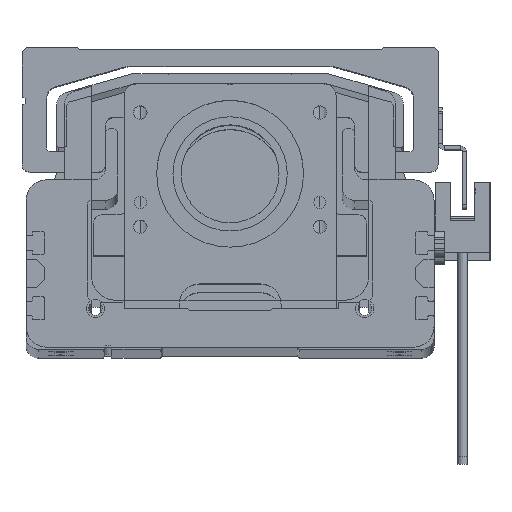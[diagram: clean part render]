
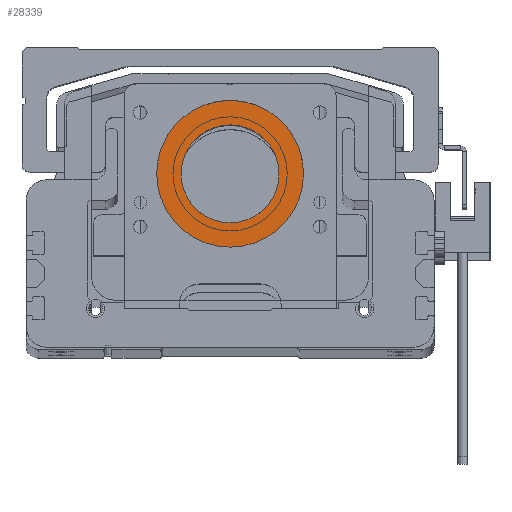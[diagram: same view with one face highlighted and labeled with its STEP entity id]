
A CAD part, top view. The second image highlights one B-rep face of the part: STEP entity #28339.
In plain terms, the highlighted planar face has unit normal (0, 0, 1).
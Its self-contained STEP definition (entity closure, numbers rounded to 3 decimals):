
#1745 = DIRECTION ( 'NONE',  ( 1., 0., 0. ) ) ;
#1786 = DIRECTION ( 'NONE',  ( 0., 0., 1. ) ) ;
#1792 = CARTESIAN_POINT ( 'NONE',  ( 0., 33., 2.5 ) ) ;
#2584 = EDGE_LOOP ( 'NONE', ( #22547, #3593 ) ) ;
#3043 = CIRCLE ( 'NONE', #20896, 18. ) ;
#3593 = ORIENTED_EDGE ( 'NONE', *, *, #31316, .T. ) ;
#5045 = ORIENTED_EDGE ( 'NONE', *, *, #23873, .F. ) ;
#6402 = CARTESIAN_POINT ( 'NONE',  ( 0., 33., 2.5 ) ) ;
#8104 = AXIS2_PLACEMENT_3D ( 'NONE', #28690, #13415, #31208 ) ;
#8512 = ORIENTED_EDGE ( 'NONE', *, *, #18839, .F. ) ;
#10773 = CARTESIAN_POINT ( 'NONE',  ( -12., 33., 2.5 ) ) ;
#11591 = DIRECTION ( 'NONE',  ( 0., 0., 1. ) ) ;
#12077 = VERTEX_POINT ( 'NONE', #27570 ) ;
#13415 = DIRECTION ( 'NONE',  ( 0., 0., 1. ) ) ;
#13683 = CIRCLE ( 'NONE', #8104, 18. ) ;
#15965 = CIRCLE ( 'NONE', #18710, 12. ) ;
#18486 = VERTEX_POINT ( 'NONE', #10773 ) ;
#18503 = AXIS2_PLACEMENT_3D ( 'NONE', #19681, #19646, #19640 ) ;
#18710 = AXIS2_PLACEMENT_3D ( 'NONE', #1792, #1786, #1745 ) ;
#18839 = EDGE_CURVE ( 'NONE', #18486, #21150, #15965, .T. ) ;
#19222 = CIRCLE ( 'NONE', #18503, 12. ) ;
#19395 = EDGE_CURVE ( 'NONE', #21431, #12077, #3043, .T. ) ;
#19495 = DIRECTION ( 'NONE',  ( 1., 0., 0. ) ) ;
#19617 = DIRECTION ( 'NONE',  ( 0., 0., 1. ) ) ;
#19640 = DIRECTION ( 'NONE',  ( 1., 0., 0. ) ) ;
#19646 = DIRECTION ( 'NONE',  ( 0., 0., 1. ) ) ;
#19681 = CARTESIAN_POINT ( 'NONE',  ( 0., 33., 2.5 ) ) ;
#19708 = AXIS2_PLACEMENT_3D ( 'NONE', #6402, #11591, #29432 ) ;
#19721 = CARTESIAN_POINT ( 'NONE',  ( 0., 33., 2.5 ) ) ;
#20533 = CARTESIAN_POINT ( 'NONE',  ( 18., 33., 2.5 ) ) ;
#20896 = AXIS2_PLACEMENT_3D ( 'NONE', #19721, #19617, #19495 ) ;
#21150 = VERTEX_POINT ( 'NONE', #25452 ) ;
#21431 = VERTEX_POINT ( 'NONE', #20533 ) ;
#22547 = ORIENTED_EDGE ( 'NONE', *, *, #19395, .T. ) ;
#23873 = EDGE_CURVE ( 'NONE', #21150, #18486, #19222, .T. ) ;
#25452 = CARTESIAN_POINT ( 'NONE',  ( 12., 33., 2.5 ) ) ;
#26909 = PLANE ( 'NONE',  #19708 ) ;
#27570 = CARTESIAN_POINT ( 'NONE',  ( -18., 33., 2.5 ) ) ;
#28061 = FACE_OUTER_BOUND ( 'NONE', #2584, .T. ) ;
#28339 = ADVANCED_FACE ( 'NONE', ( #28061, #33020 ), #26909, .T. ) ;
#28690 = CARTESIAN_POINT ( 'NONE',  ( 0., 33., 2.5 ) ) ;
#29432 = DIRECTION ( 'NONE',  ( 1., 0., 0. ) ) ;
#29492 = EDGE_LOOP ( 'NONE', ( #5045, #8512 ) ) ;
#31208 = DIRECTION ( 'NONE',  ( 1., 0., 0. ) ) ;
#31316 = EDGE_CURVE ( 'NONE', #12077, #21431, #13683, .T. ) ;
#33020 = FACE_BOUND ( 'NONE', #29492, .T. ) ;
